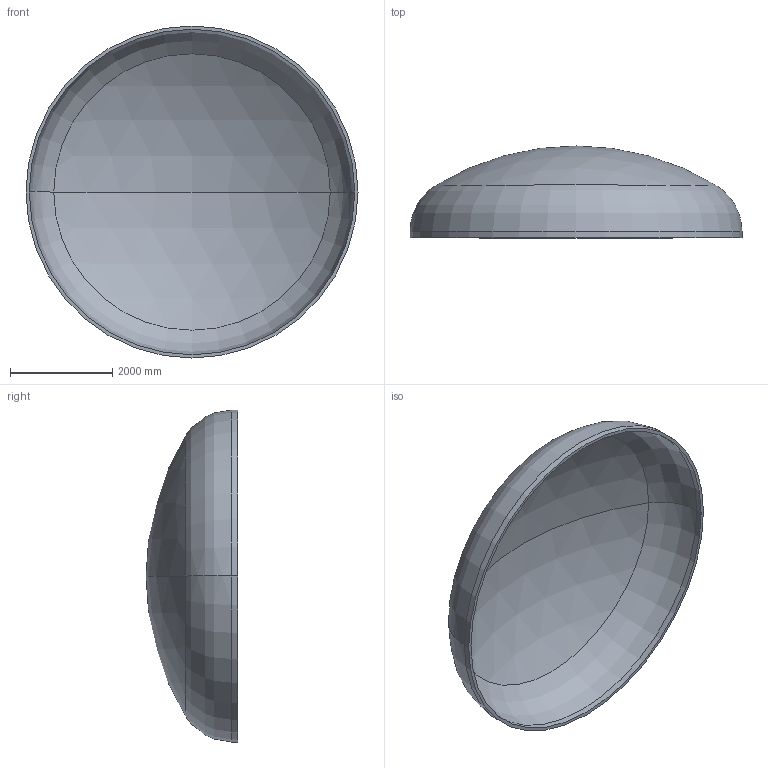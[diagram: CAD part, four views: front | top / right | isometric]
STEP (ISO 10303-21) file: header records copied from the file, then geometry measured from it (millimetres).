
FILE_DESCRIPTION (( 'STEP AP203' ), '1' );
FILE_NAME ('DIN 28013 Korbbogenform_-_Boden DIN 28013 - 6500 x 120 - I - s=64.step', '2016-07-04T10:42:51', ( '' ), ( '' ), 'SwSTEP 2.0', 'SolidWorks 2013', '' );
FILE_SCHEMA (( 'CONFIG_CONTROL_DESIGN' ));
Length unit declared in the file: millimetre
Products named in the file (1): DIN 28013 Korbbogenform_-_Boden DIN 28013 - 6500 x 120 - I - s=64
Bounding box: 6500 x 1797.72 x 6500 mm (x, y, z)
Volume: 3057982083.1 mm3; surface area: 96864516.7 mm2
Topology: 1 solids, 1 shells, 13 faces, 24 edges, 14 vertices
Faces by surface type: torus 4, cylinder 4, sphere 4, plane 1
Entity records: 407 total; most frequent: DIRECTION 72, CARTESIAN_POINT 52, ORIENTED_EDGE 48, AXIS2_PLACEMENT_3D 34, EDGE_CURVE 24, CIRCLE 20, EDGE_LOOP 14, VERTEX_POINT 14
